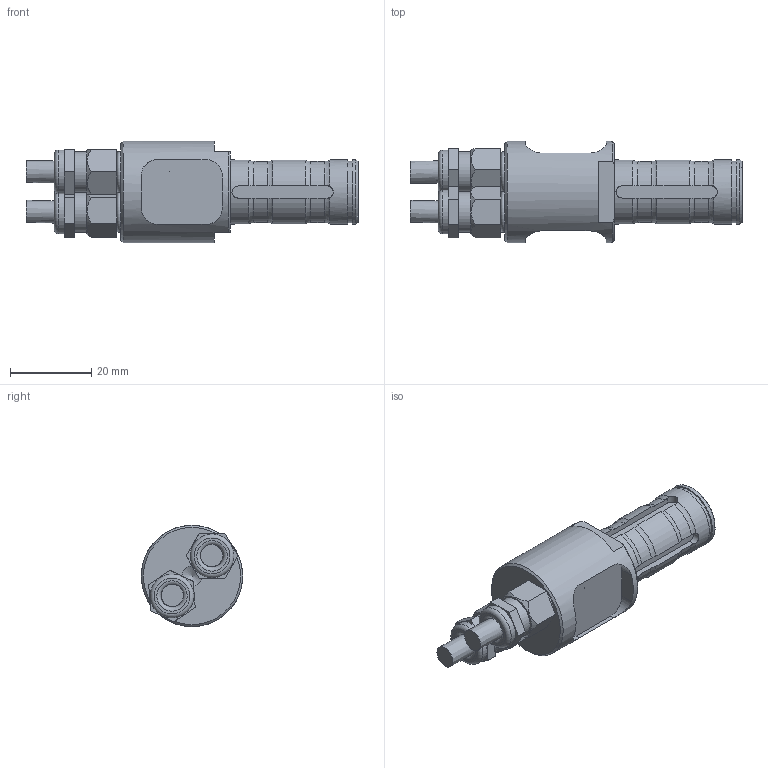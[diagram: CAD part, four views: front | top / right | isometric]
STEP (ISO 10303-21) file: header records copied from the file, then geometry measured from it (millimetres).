
FILE_DESCRIPTION(/* description */ ('Alibre Inc.'),/* implementation_level */ '2;1');
FILE_NAME(/* name */ 'export0',/* time_stamp */ '2016-04-25T11:39:44+02:00',/* author */ (''),/* organization */ (''),/* preprocessor_version */ 'ST-DEVELOPER v14',/* originating_system */ 'Alibre',/* authorisation */ '');
FILE_SCHEMA (('CONFIG_CONTROL_DESIGN'));
Length unit declared in the file: centimetre
Products named in the file (6): ID_1; ID_2; ID_3
Bounding box: 81.94 x 25 x 25 mm (x, y, z)
Volume: 18157.2 mm3; surface area: 9202.2 mm2
Topology: 7 solids, 7 shells, 196 faces, 505 edges, 335 vertices
Faces by surface type: plane 109, cylinder 52, torus 22, cone 11, bspline 2
Full cylindrical faces by diameter (mm): 5 x1, 5.5 x2, 6.917 x2, 8 x2, 10 x2, 10.8 x2, 15.2 x1, 16 x3, 25 x1
Entity records: 6770 total; most frequent: CARTESIAN_POINT 2501, ORIENTED_EDGE 826, DIRECTION 589, EDGE_CURVE 413, VERTEX_POINT 289, VECTOR 229, LINE 229, AXIS2_PLACEMENT_3D 225
